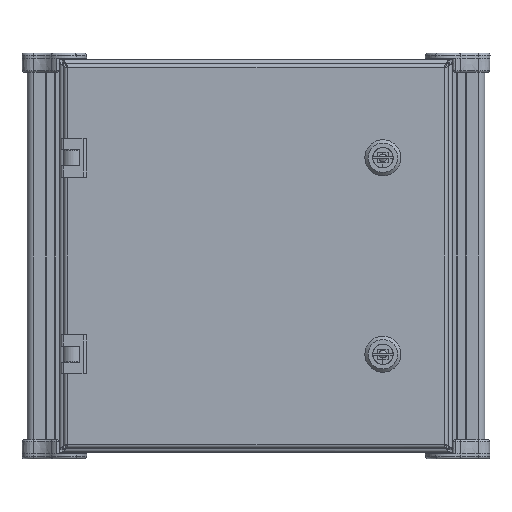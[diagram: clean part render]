
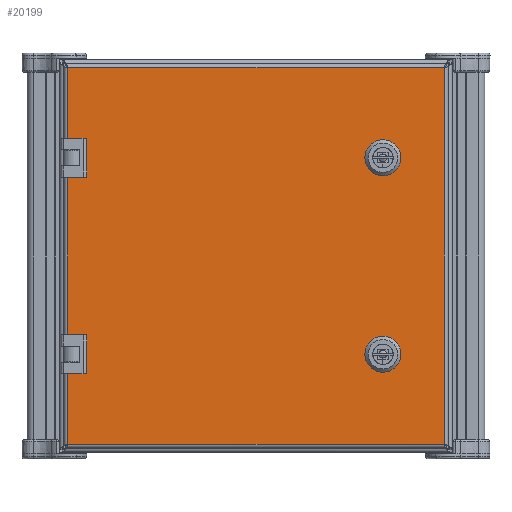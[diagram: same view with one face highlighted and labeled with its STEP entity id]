
A CAD part, front view. The second image highlights one B-rep face of the part: STEP entity #20199.
In plain terms, the highlighted planar face has unit normal (0, -1, 0).
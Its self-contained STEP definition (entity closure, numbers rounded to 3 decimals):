
#6153=ORIENTED_EDGE('',*,*,#9935,.F.);
#6154=ORIENTED_EDGE('',*,*,#9932,.F.);
#6155=ORIENTED_EDGE('',*,*,#9953,.F.);
#6156=ORIENTED_EDGE('',*,*,#9950,.F.);
#6157=ORIENTED_EDGE('',*,*,#9947,.F.);
#6158=ORIENTED_EDGE('',*,*,#9944,.F.);
#6159=ORIENTED_EDGE('',*,*,#9941,.F.);
#6160=ORIENTED_EDGE('',*,*,#9938,.F.);
#6161=ORIENTED_EDGE('',*,*,#9983,.F.);
#6162=ORIENTED_EDGE('',*,*,#9984,.F.);
#6163=ORIENTED_EDGE('',*,*,#9985,.F.);
#6164=ORIENTED_EDGE('',*,*,#9986,.F.);
#6165=ORIENTED_EDGE('',*,*,#9987,.F.);
#6166=ORIENTED_EDGE('',*,*,#9988,.F.);
#6167=ORIENTED_EDGE('',*,*,#9989,.F.);
#6168=ORIENTED_EDGE('',*,*,#9990,.F.);
#6169=ORIENTED_EDGE('',*,*,#9991,.T.);
#6170=ORIENTED_EDGE('',*,*,#9963,.T.);
#6171=ORIENTED_EDGE('',*,*,#9955,.T.);
#6172=ORIENTED_EDGE('',*,*,#9965,.T.);
#6173=ORIENTED_EDGE('',*,*,#9916,.T.);
#6174=ORIENTED_EDGE('',*,*,#9992,.T.);
#6175=ORIENTED_EDGE('',*,*,#9993,.T.);
#6176=ORIENTED_EDGE('',*,*,#9994,.T.);
#6177=ORIENTED_EDGE('',*,*,#9995,.T.);
#6178=ORIENTED_EDGE('',*,*,#9996,.T.);
#6179=ORIENTED_EDGE('',*,*,#9997,.F.);
#6180=ORIENTED_EDGE('',*,*,#9998,.T.);
#9916=EDGE_CURVE('',#12119,#12118,#13773,.T.);
#9932=EDGE_CURVE('',#12130,#12131,#13786,.T.);
#9935=EDGE_CURVE('',#12131,#12133,#13789,.T.);
#9938=EDGE_CURVE('',#12133,#12135,#13792,.T.);
#9941=EDGE_CURVE('',#12135,#12137,#13795,.T.);
#9944=EDGE_CURVE('',#12137,#12139,#13798,.T.);
#9947=EDGE_CURVE('',#12139,#12141,#13801,.T.);
#9950=EDGE_CURVE('',#12141,#12143,#13804,.T.);
#9953=EDGE_CURVE('',#12143,#12130,#13807,.T.);
#9955=EDGE_CURVE('',#12146,#12145,#13809,.T.);
#9963=EDGE_CURVE('',#12153,#12146,#13816,.T.);
#9965=EDGE_CURVE('',#12145,#12119,#13817,.T.);
#9983=EDGE_CURVE('',#12169,#12170,#13835,.T.);
#9984=EDGE_CURVE('',#12171,#12169,#13836,.T.);
#9985=EDGE_CURVE('',#12172,#12171,#13837,.T.);
#9986=EDGE_CURVE('',#12173,#12172,#13838,.T.);
#9987=EDGE_CURVE('',#12174,#12173,#13839,.T.);
#9988=EDGE_CURVE('',#12175,#12174,#13840,.T.);
#9989=EDGE_CURVE('',#12176,#12175,#13841,.T.);
#9990=EDGE_CURVE('',#12170,#12176,#13842,.T.);
#9991=EDGE_CURVE('',#12177,#12153,#13843,.T.);
#9992=EDGE_CURVE('',#12118,#12178,#13844,.T.);
#9993=EDGE_CURVE('',#12178,#12179,#13845,.T.);
#9994=EDGE_CURVE('',#12179,#12180,#13846,.T.);
#9995=EDGE_CURVE('',#12180,#12181,#13847,.T.);
#9996=EDGE_CURVE('',#12181,#12182,#13848,.T.);
#9997=EDGE_CURVE('',#12183,#12182,#13849,.T.);
#9998=EDGE_CURVE('',#12183,#12177,#13850,.T.);
#12118=VERTEX_POINT('',#35140);
#12119=VERTEX_POINT('',#35142);
#12130=VERTEX_POINT('',#35173);
#12131=VERTEX_POINT('',#35175);
#12133=VERTEX_POINT('',#35181);
#12135=VERTEX_POINT('',#35187);
#12137=VERTEX_POINT('',#35193);
#12139=VERTEX_POINT('',#35199);
#12141=VERTEX_POINT('',#35205);
#12143=VERTEX_POINT('',#35211);
#12145=VERTEX_POINT('',#35219);
#12146=VERTEX_POINT('',#35221);
#12153=VERTEX_POINT('',#35237);
#12169=VERTEX_POINT('',#35276);
#12170=VERTEX_POINT('',#35277);
#12171=VERTEX_POINT('',#35279);
#12172=VERTEX_POINT('',#35281);
#12173=VERTEX_POINT('',#35283);
#12174=VERTEX_POINT('',#35285);
#12175=VERTEX_POINT('',#35287);
#12176=VERTEX_POINT('',#35289);
#12177=VERTEX_POINT('',#35292);
#12178=VERTEX_POINT('',#35294);
#12179=VERTEX_POINT('',#35296);
#12180=VERTEX_POINT('',#35298);
#12181=VERTEX_POINT('',#35300);
#12182=VERTEX_POINT('',#35302);
#12183=VERTEX_POINT('',#35304);
#13773=LINE('',#35141,#15417);
#13786=LINE('',#35174,#15430);
#13789=LINE('',#35180,#15433);
#13792=LINE('',#35186,#15436);
#13795=LINE('',#35192,#15439);
#13798=LINE('',#35198,#15442);
#13801=LINE('',#35204,#15445);
#13804=LINE('',#35210,#15448);
#13807=LINE('',#35215,#15451);
#13809=LINE('',#35220,#15453);
#13816=LINE('',#35236,#15460);
#13817=LINE('',#35240,#15461);
#13835=LINE('',#35275,#15479);
#13836=LINE('',#35278,#15480);
#13837=LINE('',#35280,#15481);
#13838=LINE('',#35282,#15482);
#13839=LINE('',#35284,#15483);
#13840=LINE('',#35286,#15484);
#13841=LINE('',#35288,#15485);
#13842=LINE('',#35290,#15486);
#13843=LINE('',#35291,#15487);
#13844=LINE('',#35293,#15488);
#13845=LINE('',#35295,#15489);
#13846=LINE('',#35297,#15490);
#13847=LINE('',#35299,#15491);
#13848=LINE('',#35301,#15492);
#13849=LINE('',#35303,#15493);
#13850=LINE('',#35305,#15494);
#15417=VECTOR('',#26877,1000.);
#15430=VECTOR('',#26906,1000.);
#15433=VECTOR('',#26911,1000.);
#15436=VECTOR('',#26916,1000.);
#15439=VECTOR('',#26921,1000.);
#15442=VECTOR('',#26926,1000.);
#15445=VECTOR('',#26931,1000.);
#15448=VECTOR('',#26936,1000.);
#15451=VECTOR('',#26941,1000.);
#15453=VECTOR('',#26945,1000.);
#15460=VECTOR('',#26956,1000.);
#15461=VECTOR('',#26961,1000.);
#15479=VECTOR('',#26983,1000.);
#15480=VECTOR('',#26984,1000.);
#15481=VECTOR('',#26985,1000.);
#15482=VECTOR('',#26986,1000.);
#15483=VECTOR('',#26987,1000.);
#15484=VECTOR('',#26988,1000.);
#15485=VECTOR('',#26989,1000.);
#15486=VECTOR('',#26990,1000.);
#15487=VECTOR('',#26991,1000.);
#15488=VECTOR('',#26992,1000.);
#15489=VECTOR('',#26993,1000.);
#15490=VECTOR('',#26994,1000.);
#15491=VECTOR('',#26995,1000.);
#15492=VECTOR('',#26996,1000.);
#15493=VECTOR('',#26997,1000.);
#15494=VECTOR('',#26998,1000.);
#17038=EDGE_LOOP('',(#6153,#6154,#6155,#6156,#6157,#6158,#6159,#6160));
#17039=EDGE_LOOP('',(#6161,#6162,#6163,#6164,#6165,#6166,#6167,#6168));
#17040=EDGE_LOOP('',(#6169,#6170,#6171,#6172,#6173,#6174,#6175,#6176,#6177,
#6178,#6179,#6180));
#18444=FACE_BOUND('',#17038,.T.);
#18445=FACE_BOUND('',#17039,.T.);
#18446=FACE_BOUND('',#17040,.T.);
#19221=PLANE('',#22648);
#20199=ADVANCED_FACE('',(#18444,#18445,#18446),#19221,.F.);
#22648=AXIS2_PLACEMENT_3D('',#35274,#26981,#26982);
#26877=DIRECTION('',(0.,0.,-1.));
#26906=DIRECTION('',(-1.,0.,0.));
#26911=DIRECTION('',(-0.707,0.,-0.707));
#26916=DIRECTION('',(0.,0.,-1.));
#26921=DIRECTION('',(0.707,0.,-0.707));
#26926=DIRECTION('',(1.,0.,0.));
#26931=DIRECTION('',(0.707,0.,0.707));
#26936=DIRECTION('',(0.,0.,1.));
#26941=DIRECTION('',(-0.707,0.,0.707));
#26945=DIRECTION('',(0.,0.,-1.));
#26956=DIRECTION('',(1.,0.,0.));
#26961=DIRECTION('',(-1.,0.,0.));
#26981=DIRECTION('',(0.,1.,0.));
#26982=DIRECTION('',(0.,0.,1.));
#26983=DIRECTION('',(-0.707,0.,-0.707));
#26984=DIRECTION('',(-1.,0.,0.));
#26985=DIRECTION('',(-0.707,0.,0.707));
#26986=DIRECTION('',(0.,0.,1.));
#26987=DIRECTION('',(0.707,0.,0.707));
#26988=DIRECTION('',(1.,0.,0.));
#26989=DIRECTION('',(0.707,0.,-0.707));
#26990=DIRECTION('',(0.,0.,-1.));
#26991=DIRECTION('',(0.,0.,-1.));
#26992=DIRECTION('',(1.,0.,0.));
#26993=DIRECTION('',(0.,0.,-1.));
#26994=DIRECTION('',(-1.,0.,0.));
#26995=DIRECTION('',(0.,0.,-1.));
#26996=DIRECTION('',(1.,0.,0.));
#26997=DIRECTION('',(0.,0.,-1.));
#26998=DIRECTION('',(-1.,0.,0.));
#35140=CARTESIAN_POINT('',(-146.139,0.,-66.167));
#35141=CARTESIAN_POINT('',(-146.139,0.,-149.225));
#35142=CARTESIAN_POINT('',(-146.139,0.,66.167));
#35173=CARTESIAN_POINT('',(104.292,0.,86.246));
#35174=CARTESIAN_POINT('',(104.292,0.,86.246));
#35175=CARTESIAN_POINT('',(92.558,0.,86.246));
#35180=CARTESIAN_POINT('',(92.558,0.,86.246));
#35181=CARTESIAN_POINT('',(88.379,0.,82.067));
#35186=CARTESIAN_POINT('',(88.379,0.,82.067));
#35187=CARTESIAN_POINT('',(88.379,0.,70.333));
#35192=CARTESIAN_POINT('',(88.379,0.,70.333));
#35193=CARTESIAN_POINT('',(92.558,0.,66.154));
#35198=CARTESIAN_POINT('',(92.558,0.,66.154));
#35199=CARTESIAN_POINT('',(104.292,0.,66.154));
#35204=CARTESIAN_POINT('',(108.471,0.,70.333));
#35205=CARTESIAN_POINT('',(108.471,0.,70.333));
#35210=CARTESIAN_POINT('',(108.471,0.,70.333));
#35211=CARTESIAN_POINT('',(108.471,0.,82.067));
#35215=CARTESIAN_POINT('',(104.292,0.,86.246));
#35219=CARTESIAN_POINT('',(-134.95,0.,66.167));
#35220=CARTESIAN_POINT('',(-134.95,0.,86.233));
#35221=CARTESIAN_POINT('',(-134.95,0.,86.233));
#35236=CARTESIAN_POINT('',(-149.225,0.,86.233));
#35237=CARTESIAN_POINT('',(-146.139,0.,86.233));
#35240=CARTESIAN_POINT('',(-134.95,0.,66.167));
#35274=CARTESIAN_POINT('',(0.,0.,0.));
#35275=CARTESIAN_POINT('',(92.558,0.,-66.154));
#35276=CARTESIAN_POINT('',(92.558,0.,-66.154));
#35277=CARTESIAN_POINT('',(88.379,0.,-70.333));
#35278=CARTESIAN_POINT('',(104.292,0.,-66.154));
#35279=CARTESIAN_POINT('',(104.292,0.,-66.154));
#35280=CARTESIAN_POINT('',(104.292,0.,-66.154));
#35281=CARTESIAN_POINT('',(108.471,0.,-70.333));
#35282=CARTESIAN_POINT('',(108.471,0.,-82.067));
#35283=CARTESIAN_POINT('',(108.471,0.,-82.067));
#35284=CARTESIAN_POINT('',(108.471,0.,-82.067));
#35285=CARTESIAN_POINT('',(104.292,0.,-86.246));
#35286=CARTESIAN_POINT('',(92.558,0.,-86.246));
#35287=CARTESIAN_POINT('',(92.558,0.,-86.246));
#35288=CARTESIAN_POINT('',(88.379,0.,-82.067));
#35289=CARTESIAN_POINT('',(88.379,0.,-82.067));
#35290=CARTESIAN_POINT('',(88.379,0.,-70.333));
#35291=CARTESIAN_POINT('',(-146.139,0.,-149.225));
#35292=CARTESIAN_POINT('',(-146.139,0.,146.139));
#35293=CARTESIAN_POINT('',(-149.225,0.,-66.167));
#35294=CARTESIAN_POINT('',(-134.95,0.,-66.167));
#35295=CARTESIAN_POINT('',(-134.95,0.,-66.167));
#35296=CARTESIAN_POINT('',(-134.95,0.,-86.233));
#35297=CARTESIAN_POINT('',(-134.95,0.,-86.233));
#35298=CARTESIAN_POINT('',(-146.139,0.,-86.233));
#35299=CARTESIAN_POINT('',(-146.139,0.,-149.225));
#35300=CARTESIAN_POINT('',(-146.139,0.,-146.139));
#35301=CARTESIAN_POINT('',(146.139,0.,-146.139));
#35302=CARTESIAN_POINT('',(146.139,0.,-146.139));
#35303=CARTESIAN_POINT('',(146.139,0.,146.139));
#35304=CARTESIAN_POINT('',(146.139,0.,146.139));
#35305=CARTESIAN_POINT('',(-149.225,0.,146.139));
